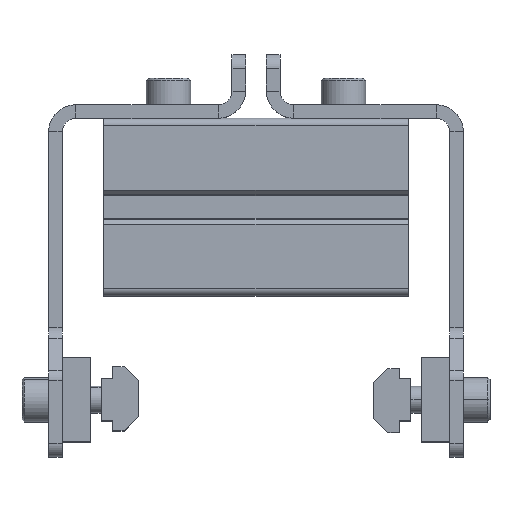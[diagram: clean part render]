
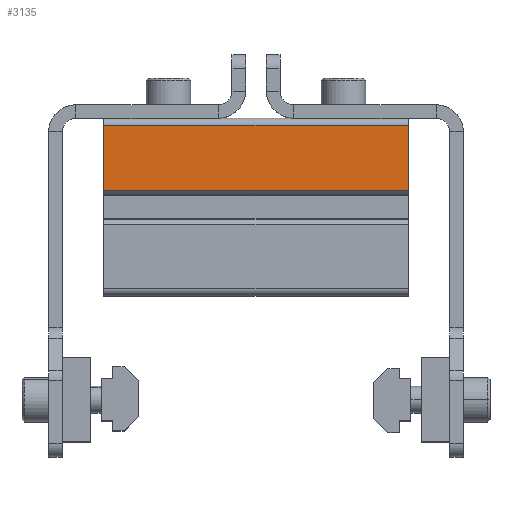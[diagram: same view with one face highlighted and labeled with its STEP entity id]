
A CAD part, top view. The second image highlights one B-rep face of the part: STEP entity #3135.
In plain terms, the highlighted planar face has unit normal (0, 0, 1) as drawn and (0, 1, 0) by its records, which use the part's own axes.
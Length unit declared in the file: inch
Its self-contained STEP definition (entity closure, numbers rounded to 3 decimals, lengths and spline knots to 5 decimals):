
#704 = CARTESIAN_POINT ( 'NONE',  ( -0.725, 0.441, 1.35 ) ) ;
#733 = CARTESIAN_POINT ( 'NONE',  ( 0.7875, 0.441, 1.35 ) ) ;
#1026 = LINE ( 'NONE', #733, #6890 ) ;
#1214 = CARTESIAN_POINT ( 'NONE',  ( 0.7875, 0.441, -1.35 ) ) ;
#1340 = DIRECTION ( 'NONE',  ( 0., 0., -1. ) ) ;
#1465 = DIRECTION ( 'NONE',  ( -1., 0., 0. ) ) ;
#1637 = VERTEX_POINT ( 'NONE', #6589 ) ;
#1994 = DIRECTION ( 'NONE',  ( 1., 0., 0. ) ) ;
#2019 = CARTESIAN_POINT ( 'NONE',  ( -0.7875, 0.441, 75. ) ) ;
#2149 = EDGE_CURVE ( 'NONE', #8287, #1637, #8100, .T. ) ;
#2239 = EDGE_LOOP ( 'NONE', ( #3330, #3112, #4203, #4024 ) ) ;
#2588 = EDGE_CURVE ( 'NONE', #1637, #6425, #1026, .T. ) ;
#2823 = CARTESIAN_POINT ( 'NONE',  ( -0.14758, 0.441, -75. ) ) ;
#3007 = VERTEX_POINT ( 'NONE', #4452 ) ;
#3112 = ORIENTED_EDGE ( 'NONE', *, *, #6383, .F. ) ;
#3135 = ADVANCED_FACE ( 'NONE', ( #4169 ), #7138, .F. ) ;
#3330 = ORIENTED_EDGE ( 'NONE', *, *, #2149, .F. ) ;
#3476 = DIRECTION ( 'NONE',  ( 0., 0., 1. ) ) ;
#3480 = EDGE_CURVE ( 'NONE', #3007, #6425, #8291, .T. ) ;
#3807 = LINE ( 'NONE', #1214, #7434 ) ;
#4024 = ORIENTED_EDGE ( 'NONE', *, *, #2588, .F. ) ;
#4169 = FACE_OUTER_BOUND ( 'NONE', #2239, .T. ) ;
#4203 = ORIENTED_EDGE ( 'NONE', *, *, #3480, .T. ) ;
#4452 = CARTESIAN_POINT ( 'NONE',  ( -0.725, 0.441, -1.35 ) ) ;
#5099 = CARTESIAN_POINT ( 'NONE',  ( -0.725, 0.441, 75. ) ) ;
#5269 = DIRECTION ( 'NONE',  ( 0., -1., 0. ) ) ;
#5743 = CARTESIAN_POINT ( 'NONE',  ( -0.14758, 0.441, -1.35 ) ) ;
#6383 = EDGE_CURVE ( 'NONE', #3007, #8287, #3807, .T. ) ;
#6425 = VERTEX_POINT ( 'NONE', #704 ) ;
#6506 = VECTOR ( 'NONE', #3476, 39.37008 ) ;
#6589 = CARTESIAN_POINT ( 'NONE',  ( -0.14758, 0.441, 1.35 ) ) ;
#6890 = VECTOR ( 'NONE', #1465, 39.37008 ) ;
#6990 = VECTOR ( 'NONE', #8234, 39.37008 ) ;
#7093 = AXIS2_PLACEMENT_3D ( 'NONE', #2019, #5269, #1340 ) ;
#7138 = PLANE ( 'NONE',  #7093 ) ;
#7434 = VECTOR ( 'NONE', #1994, 39.37008 ) ;
#8100 = LINE ( 'NONE', #2823, #6506 ) ;
#8234 = DIRECTION ( 'NONE',  ( 0., 0., 1. ) ) ;
#8287 = VERTEX_POINT ( 'NONE', #5743 ) ;
#8291 = LINE ( 'NONE', #5099, #6990 ) ;
